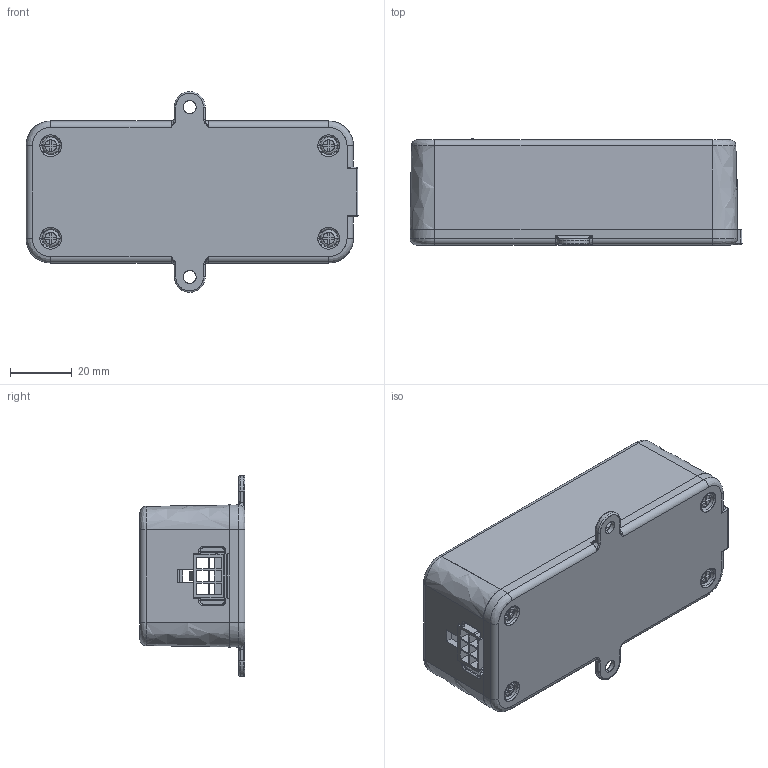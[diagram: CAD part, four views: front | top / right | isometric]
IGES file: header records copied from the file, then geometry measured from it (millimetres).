
Start section: SolidWorks IGES file using analytic representation for surfaces
Global section: file name: C:\Users\USER\Desktop\tx3a_200109_asm_asm.IGS; native system: SolidWorks 2023; preprocessor: SolidWorks 2023; author: USER; date: 260511.102804; units: millimetre
Bounding box: 107.5 x 34.3 x 65 mm (x, y, z)
Surface area: 35386.4 mm2 (no closed solid volume)
Topology: 0 solids, 0 shells, 307 faces, 2837 edges, 2833 vertices
Faces by surface type: bspline 225, revolution 82
